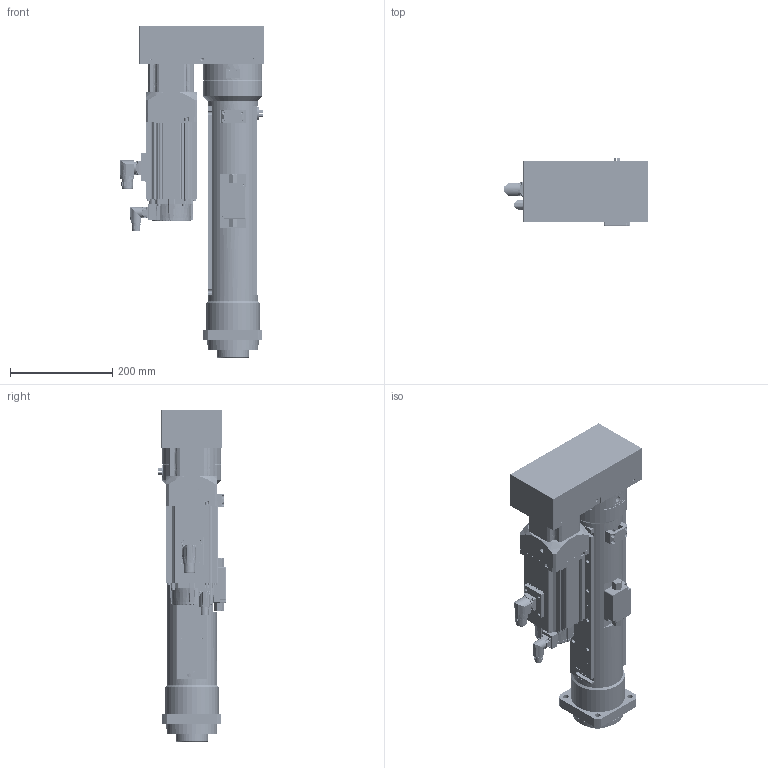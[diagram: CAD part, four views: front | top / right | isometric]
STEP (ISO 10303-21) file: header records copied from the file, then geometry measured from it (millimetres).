
FILE_DESCRIPTION( ('This file contains a STEP AP42 implementation' ,'as created by ZW3D STEP Interface translator.') ,'2;1' );
FILE_NAME( 'OACIS-DC-P015-300-290-A6V400_V20.01.stp' ,'25 715.154458', (''), ('ZWCAD Software Co.'), 'Version 1.0', 'ZW3D to STEP translator', '' );
FILE_SCHEMA(('AUTOMOTIVE_DESIGN { 1 0 10303 214 1 1 1 1 }'));
Length unit declared in the file: millimetre
Products named in the file (2): 0; OACIS-DC-P015-300-290-A6V400_V20.01001
Bounding box: 282.8 x 131.5 x 648 mm (x, y, z)
Volume: 6873474.8 mm3; surface area: 1254703.1 mm2
Topology: 37 solids, 57 shells, 3443 faces, 8899 edges, 5813 vertices
Faces by surface type: cylinder 1495, plane 1374, cone 291, bspline 166, torus 97, sphere 20
Full cylindrical faces by diameter (mm): 1.25 x12, 1.6 x8, 2.232 x6, 2.459 x1, 2.75 x4, 2.8 x1, 3.242 x10, 3.3 x114, 4 x8, 4.134 x12, 4.2 x4, 4.3 x30, 4.5 x4, 5 x40, 5.5 x9, 6 x8, 6.8 x36, 7 x20, 8 x44, 8.4 x8, 8.5 x25, 9 x4, 11 x4, 12 x1, 13.4 x1, 15 x8, 15.5 x2, 15.54 x1, 16 x1, 16.2 x1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
Entity records: 115135 total; most frequent: CARTESIAN_POINT 25861, DIRECTION 18770, ORIENTED_EDGE 17456, EDGE_CURVE 8769, AXIS2_PLACEMENT_3D 7342, VERTEX_POINT 5738, VECTOR 4086, LINE 4086
